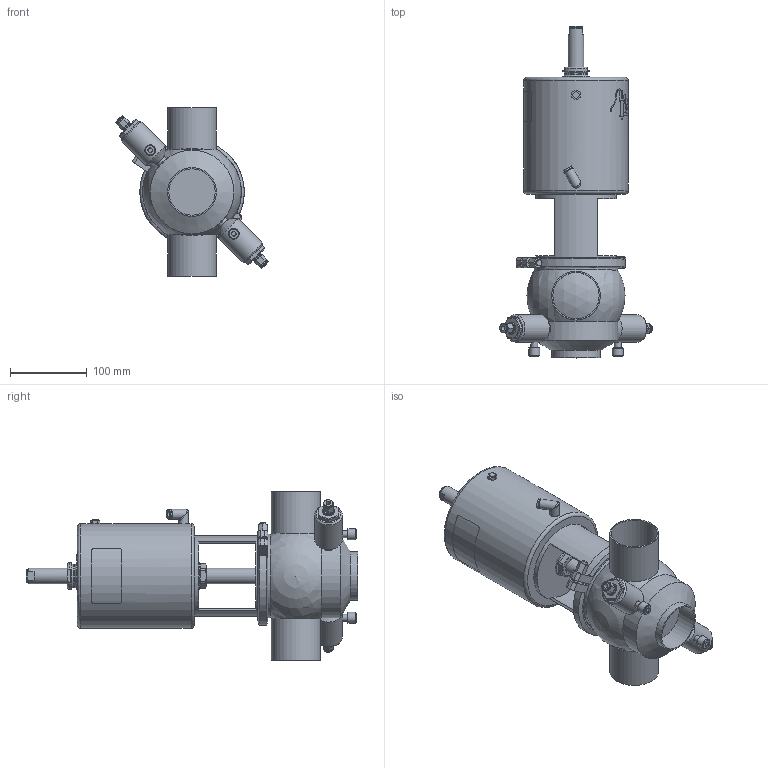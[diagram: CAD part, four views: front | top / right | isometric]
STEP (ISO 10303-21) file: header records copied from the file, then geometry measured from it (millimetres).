
FILE_DESCRIPTION (( 'STEP AP214' ), '1' );
FILE_NAME ('INNOVA D T W OD 2½ T3 AS NC_10.246.16.0002.STEP', '2024-08-08T09:38:19', ( '' ), ( '' ), 'SwSTEP 2.0', 'SolidWorks 2023', '' );
FILE_SCHEMA (( 'AUTOMOTIVE_DESIGN' ));
Length unit declared in the file: millimetre
Products named in the file (5): INNOVA D T W OD 2½ T3 AS NC_10.246.16.0002; 10.246.15.0002_OD 2½"; 10.240.15.0001_DN 065; 10.240.15.0014_T3 AS P0; 10.240.15.0010_DN 065
Assembly tree (4 placements, depth 2):
  INNOVA D T W OD 2½ T3 AS NC_10.246.16.0002
    10.246.15.0002_OD 2½"
    10.240.15.0010_DN 065
    10.240.15.0014_T3 AS P0
    10.240.15.0001_DN 065
Bounding box: 198.84 x 432.5 x 220 mm (x, y, z)
Volume: 3758709.3 mm3; surface area: 318257.4 mm2
Topology: 4 solids, 4 shells, 424 faces, 1065 edges, 690 vertices
Faces by surface type: plane 225, cylinder 85, bspline 80, cone 27, torus 4, sphere 3
Full cylindrical faces by diameter (mm): 6 x4, 6.15 x1, 8 x3, 8.5 x1, 9 x2, 10 x2, 10.5 x1, 12 x4, 12.5 x3, 14 x4, 15 x2, 16 x1, 20 x2, 31 x1, 34.5 x2, 36 x2, 36.5 x1, 60.2 x3, 63.5 x3, 105 x1, 109 x2, 121 x2, 136 x1
Entity records: 23044 total; most frequent: CARTESIAN_POINT 12038, ORIENTED_EDGE 1928, DIRECTION 1611, EDGE_CURVE 964, VERTEX_POINT 667, AXIS2_PLACEMENT_3D 607, EDGE_LOOP 551, FACE_OUTER_BOUND 479
